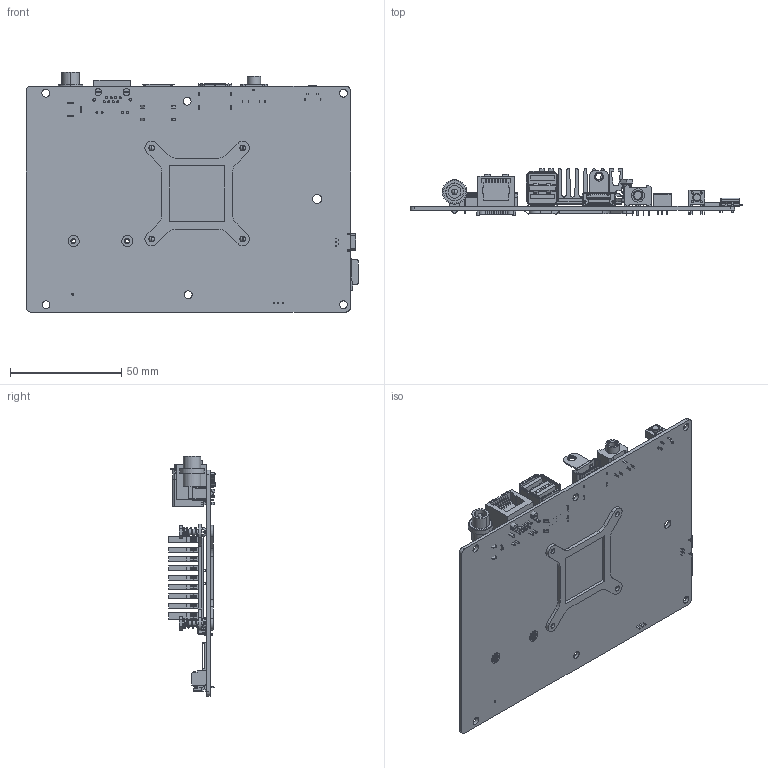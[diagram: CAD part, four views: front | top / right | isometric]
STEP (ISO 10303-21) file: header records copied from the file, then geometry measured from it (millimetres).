
FILE_DESCRIPTION((''),'2;1');
FILE_NAME('00_AIB-IMX6-METAL_ASSY_ASM','2015-05-25T',('jimmy_tseng'),(''),'PRO/ENGINEER BY PARAMETRIC TECHNOLOGY CORPORATION, 2012360','PRO/ENGINEER BY PARAMETRIC TECHNOLOGY CORPORATION, 2012360','');
FILE_SCHEMA(('CONFIG_CONTROL_DESIGN'));
Products named in the file (23): RSC-IMX61; E1652503106R; E1652512307R; E1654808307R; HDMI; E165250530AR; SW-TACT_12GA1601000500-6-4-2; E1651X00902H; E1654805305R; LED_SMD; 1655303022; E1654252132H; E193A3601X0R; CPU-BRACKET_41-41; RSC-IMX61_ASM; 0_AIB-IMX6-METAL_LAYOUT_ASM; E1961211052000R-2; E1961211052000R-3; E1961211052000R-4; E1961211052000R-5; E1961211052000R-1_ASM; E1961211052000R_ASM; 00_AIB-IMX6-METAL_ASSY_ASM
Assembly tree (27 placements, depth 4):
  00_AIB-IMX6-METAL_ASSY_ASM
    0_AIB-IMX6-METAL_LAYOUT_ASM
      RSC-IMX61_ASM
        RSC-IMX61
        E1652503106R
        E1652512307R
        E1654808307R
        HDMI
        E165250530AR
        SW-TACT_12GA1601000500-6-4-2
        E1651X00902H
        E1654805305R
        LED_SMD  x2
        1655303022
        E1654252132H
        E193A3601X0R  x2
        CPU-BRACKET_41-41
    E1961211052000R_ASM
      E1961211052000R-1_ASM
        E1961211052000R-2  x4
        E1961211052000R-3
        E1961211052000R-4
        E1961211052000R-5
Bounding box: 149.4 x 21.1 x 108 mm (x, y, z)
Volume: 43081 mm3; surface area: 60332.1 mm2
Topology: 19 solids, 31 shells, 3735 faces, 10393 edges, 6780 vertices
Faces by surface type: plane 2514, cylinder 983, bspline 171, torus 31, cone 26, sphere 6, extrusion 4
Entity records: 112938 total; most frequent: CARTESIAN_POINT 25229, ORIENTED_EDGE 18706, DIRECTION 17522, EDGE_CURVE 9372, VECTOR 7392, LINE 7388, VERTEX_POINT 6148, AXIS2_PLACEMENT_3D 5065
